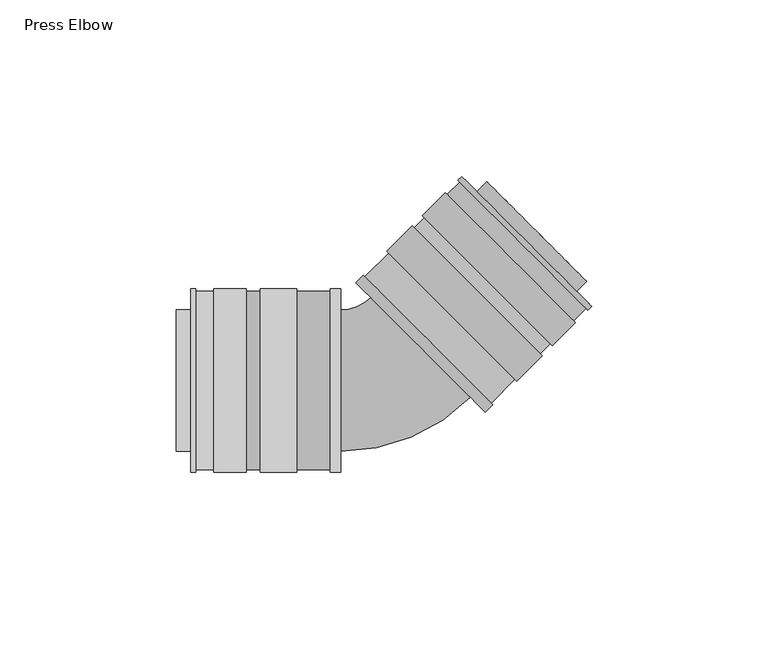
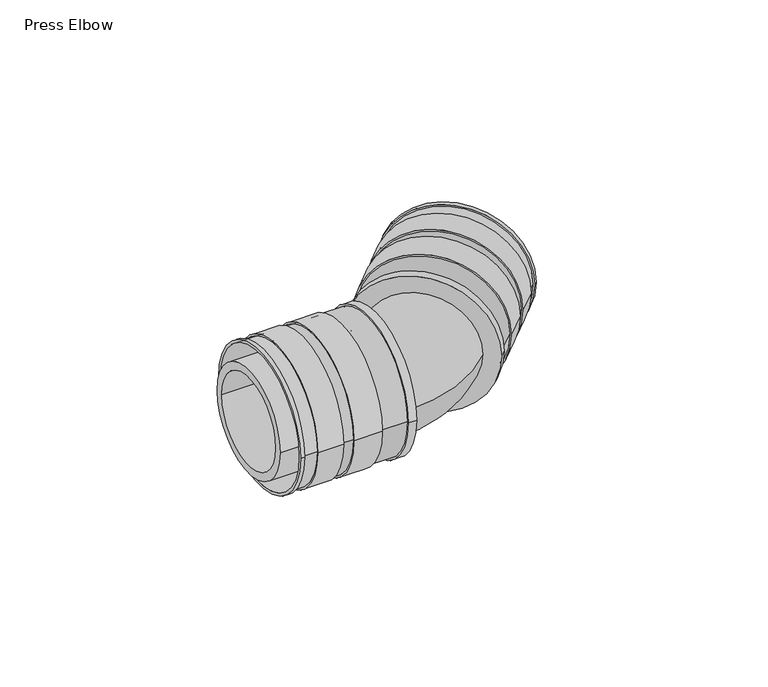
"""IFC4 building model written with IfcOpenShell, lengths in millimetres: pipe fitting geometry, Press Elbow : Superpipe Press Elbow."""

from ifc_helpers import new_model, si_unit, point, frame, origin, origin_2d, place, context, project, spatial, polyline, circle_curve, ellipse_curve, trimmed, segment, composite_curve, outline, extrude, source, transform, mapped, element, save
from ifc_brep_helpers import plane_surface, cylinder_surface, revolved_surface, advanced_brep


def press_elbow_ccdfa179(model_context):
    return source(origin(), model_context, "Body", "SolidModel", [
        advanced_brep(
        [(-6.3958982, 29.3837049, 0.0), (29.3837049, -6.3958982, 0.0), (29.1715729, -6.1837662, 0.0), (-6.1837662, 29.1715729, 0.0), (57.8093975, 21.0398449, 0.0), (21.0398449, 57.8093975, 0.0), (57.1022907, 21.7469517, 0.0), (21.7469517, 57.1022907, 0.0), (56.7487373, 19.9791847, 0.0), (19.9791847, 56.7487373, 0.0), (36.5961941, -0.1733585, 0.0), (-0.1733585, 36.5961941, 0.0), (7.074486, 43.8440386, 0.0), (43.8440386, 7.074486, 0.0), (46.6724657, 9.9029131, 0.0), (9.9029131, 46.6724657, 0.0), (16.4436508, 53.2132034, 0.0), (53.2132034, 16.4436508, 0.0), (36.1012193, 0.3216162, 0.0), (0.3216162, 36.1012193, 0.0), (43.3490638, 7.5694607, 0.0), (7.5694607, 43.3490638, 0.0), (46.177491, 10.3978878, 0.0), (10.3978878, 46.177491, 0.0), (20.4741595, 56.2537626, 0.0), (56.2537626, 20.4741595, 0.0), (16.9386256, 52.7182287, 0.0), (52.7182287, 16.9386256, 0.0)],
        [
            (0, 1, circle_curve(frame((11.4939033, 11.4939033, 0.0), z_axis=(-0.707106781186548, -0.7071067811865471, 0.0), x_axis=(-0.7071067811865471, 0.707106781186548, 0.0)), 25.3)),
            (1, 0, circle_curve(frame((11.4939033, 11.4939033, 0.0), z_axis=(-0.707106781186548, -0.7071067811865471, 0.0), x_axis=(-0.7071067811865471, 0.707106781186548, 0.0)), 25.3)),
            (2, 3, circle_curve(frame((11.4939033, 11.4939033, 0.0), z_axis=(0.7071067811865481, 0.7071067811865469, 0.0), x_axis=(-0.7071067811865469, 0.7071067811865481, 0.0)), 25.0)),
            (3, 2, circle_curve(frame((11.4939033, 11.4939033, 0.0), z_axis=(0.7071067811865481, 0.7071067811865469, 0.0), x_axis=(-0.7071067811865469, 0.7071067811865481, 0.0)), 25.0)),
            (4, 5, circle_curve(frame((39.4246212, 39.4246212, 0.0), z_axis=(0.7071067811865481, 0.7071067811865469, 0.0), x_axis=(-0.7071067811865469, 0.7071067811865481, 0.0)), 26.0)),
            (5, 4, circle_curve(frame((39.4246212, 39.4246212, 0.0), z_axis=(0.7071067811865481, 0.7071067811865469, 0.0), x_axis=(-0.7071067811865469, 0.7071067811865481, 0.0)), 26.0)),
            (6, 7, circle_curve(frame((39.4246212, 39.4246212, 0.0), z_axis=(-0.7071067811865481, -0.7071067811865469, 0.0), x_axis=(-0.7071067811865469, 0.7071067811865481, 0.0)), 25.0)),
            (7, 6, circle_curve(frame((39.4246212, 39.4246212, 0.0), z_axis=(-0.7071067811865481, -0.7071067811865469, 0.0), x_axis=(-0.7071067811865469, 0.7071067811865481, 0.0)), 25.0)),
            (4, 8),
            (8, 9, circle_curve(frame((38.363961, 38.363961, 0.0), z_axis=(0.7071067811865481, 0.7071067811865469, 0.0), x_axis=(-0.7071067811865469, 0.7071067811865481, 0.0)), 26.0)),
            (9, 5),
            (10, 11, circle_curve(frame((18.2114178, 18.2114178, 0.0), z_axis=(0.7071067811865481, 0.7071067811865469, 0.0), x_axis=(-0.7071067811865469, 0.7071067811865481, 0.0)), 26.0)),
            (11, 12),
            (12, 13, circle_curve(frame((25.4592623, 25.4592623, 0.0), z_axis=(-0.7071067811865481, -0.7071067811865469, 0.0), x_axis=(-0.7071067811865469, 0.7071067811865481, 0.0)), 26.0)),
            (13, 10),
            (14, 15, circle_curve(frame((28.2876894, 28.2876894, 0.0), z_axis=(0.7071067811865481, 0.7071067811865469, 0.0), x_axis=(-0.7071067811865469, 0.7071067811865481, 0.0)), 26.0)),
            (15, 16),
            (16, 17, circle_curve(frame((34.8284271, 34.8284271, 0.0), z_axis=(-0.7071067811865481, -0.7071067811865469, 0.0), x_axis=(-0.7071067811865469, 0.7071067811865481, 0.0)), 26.0)),
            (17, 14),
            (9, 8, circle_curve(frame((38.363961, 38.363961, 0.0), z_axis=(0.7071067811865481, 0.7071067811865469, 0.0), x_axis=(-0.7071067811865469, 0.7071067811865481, 0.0)), 26.0)),
            (11, 10, circle_curve(frame((18.2114178, 18.2114178, 0.0), z_axis=(0.7071067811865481, 0.7071067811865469, 0.0), x_axis=(-0.7071067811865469, 0.7071067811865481, 0.0)), 26.0)),
            (13, 12, circle_curve(frame((25.4592623, 25.4592623, 0.0), z_axis=(-0.7071067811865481, -0.7071067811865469, 0.0), x_axis=(-0.7071067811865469, 0.7071067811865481, 0.0)), 26.0)),
            (15, 14, circle_curve(frame((28.2876894, 28.2876894, 0.0), z_axis=(0.7071067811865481, 0.7071067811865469, 0.0), x_axis=(-0.7071067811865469, 0.7071067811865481, 0.0)), 26.0)),
            (17, 16, circle_curve(frame((34.8284271, 34.8284271, 0.0), z_axis=(-0.7071067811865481, -0.7071067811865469, 0.0), x_axis=(-0.7071067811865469, 0.7071067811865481, 0.0)), 26.0)),
            (3, 7),
            (6, 2),
            (18, 19, circle_curve(frame((18.2114178, 18.2114178, 0.0), z_axis=(0.707106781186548, 0.7071067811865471, 0.0), x_axis=(-0.7071067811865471, 0.707106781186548, 0.0)), 25.3)),
            (19, 18, circle_curve(frame((18.2114178, 18.2114178, 0.0), z_axis=(0.707106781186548, 0.7071067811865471, 0.0), x_axis=(-0.7071067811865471, 0.707106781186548, 0.0)), 25.3)),
            (18, 1),
            (0, 19),
            (20, 21, circle_curve(frame((25.4592623, 25.4592623, 0.0), z_axis=(-0.7071067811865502, -0.7071067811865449, 0.0), x_axis=(-0.7071067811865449, 0.7071067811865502, 0.0)), 25.3)),
            (21, 20, circle_curve(frame((25.4592623, 25.4592623, 0.0), z_axis=(-0.7071067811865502, -0.7071067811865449, 0.0), x_axis=(-0.7071067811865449, 0.7071067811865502, 0.0)), 25.3)),
            (22, 23, circle_curve(frame((28.2876894, 28.2876894, 0.0), z_axis=(0.7071067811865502, 0.7071067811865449, 0.0), x_axis=(-0.7071067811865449, 0.7071067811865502, 0.0)), 25.3)),
            (23, 22, circle_curve(frame((28.2876894, 28.2876894, 0.0), z_axis=(0.7071067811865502, 0.7071067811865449, 0.0), x_axis=(-0.7071067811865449, 0.7071067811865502, 0.0)), 25.3)),
            (21, 23),
            (22, 20),
            (24, 25, circle_curve(frame((38.363961, 38.363961, 0.0), z_axis=(0.7071067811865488, 0.7071067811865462, 0.0), x_axis=(0.7071067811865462, -0.7071067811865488, 0.0)), 25.3)),
            (25, 24, circle_curve(frame((38.363961, 38.363961, 0.0), z_axis=(0.7071067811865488, 0.7071067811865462, 0.0), x_axis=(0.7071067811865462, -0.7071067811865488, 0.0)), 25.3)),
            (26, 27, circle_curve(frame((34.8284271, 34.8284271, 0.0), z_axis=(-0.7071067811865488, -0.7071067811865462, 0.0), x_axis=(0.7071067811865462, -0.7071067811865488, 0.0)), 25.3)),
            (27, 26, circle_curve(frame((34.8284271, 34.8284271, 0.0), z_axis=(-0.7071067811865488, -0.7071067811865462, 0.0), x_axis=(0.7071067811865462, -0.7071067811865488, 0.0)), 25.3)),
            (25, 27),
            (26, 24),
        ],
        [
            plane_surface(frame((11.4939033, 11.4939033, 0.0), z_axis=(-0.7071067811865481, -0.7071067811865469, 0.0), x_axis=(0.0, 0.0, 1.0))),
            plane_surface(frame((39.4246212, 39.4246212, 0.0), z_axis=(0.7071067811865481, 0.7071067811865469, 0.0), x_axis=(0.0, 0.0, 1.0))),
            cylinder_surface(frame((11.4939033, 11.4939033, 0.0), z_axis=(-0.7071067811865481, -0.7071067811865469, 0.0), x_axis=(-0.7071067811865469, 0.7071067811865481, 0.0)), 26.0),
            revolved_surface(polyline([(21.74695167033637, 57.10229072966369, 0.0), (-6.1837662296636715, 29.171572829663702, 0.0)]), (11.4939033, 11.4939033, 0.0), (0.7071067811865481, 0.7071067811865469, 0.0)),
            plane_surface(frame((18.2114178, 18.2114178, 0.0), z_axis=(-0.707106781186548, -0.7071067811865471, 0.0), x_axis=(0.0, 0.0, 1.0))),
            cylinder_surface(frame((11.4939033, 11.4939033, 0.0), z_axis=(0.707106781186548, 0.7071067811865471, 0.0), x_axis=(-0.7071067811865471, 0.707106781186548, 0.0)), 25.3),
            plane_surface(frame((25.4592623, 25.4592623, 0.0), z_axis=(0.7071067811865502, 0.7071067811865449, 0.0), x_axis=(0.0, 0.0, 1.0))),
            plane_surface(frame((28.2876894, 28.2876894, 0.0), z_axis=(-0.7071067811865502, -0.7071067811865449, 0.0), x_axis=(0.0, 0.0, 1.0))),
            cylinder_surface(frame((25.4592623, 25.4592623, 0.0), z_axis=(0.7071067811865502, 0.7071067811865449, 0.0), x_axis=(-0.7071067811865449, 0.7071067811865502, 0.0)), 25.3),
            plane_surface(frame((38.363961, 38.363961, 0.0), z_axis=(-0.7071067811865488, -0.7071067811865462, 0.0), x_axis=(0.0, 0.0, 1.0))),
            plane_surface(frame((34.8284271, 34.8284271, 0.0), z_axis=(0.7071067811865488, 0.7071067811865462, 0.0), x_axis=(0.0, 0.0, 1.0))),
            cylinder_surface(frame((38.363961, 38.363961, 0.0), z_axis=(-0.7071067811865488, -0.7071067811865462, 0.0), x_axis=(0.7071067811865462, -0.7071067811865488, 0.0)), 25.3),
        ],
        [
            (0, [[1, 2], [3, 4]]),
            (1, [[5, 6], [7, 8]]),
            (2, [[-5, 9, 10, 11]]),
            (2, [[12, 13, 14, 15]]),
            (2, [[16, 17, 18, 19]]),
            (2, [[-6, -11, 20, -9]]),
            (2, [[21, -15, 22, -13]]),
            (2, [[23, -19, 24, -17]]),
            (3, [[-4, 25, -7, 26]]),
            (3, [[-3, -26, -8, -25]]),
            (4, [[-12, -21], [27, 28]]),
            (5, [[-27, 29, -1, 30]]),
            (5, [[-28, -30, -2, -29]]),
            (6, [[-14, -22], [31, 32]]),
            (7, [[-16, -23], [33, 34]]),
            (8, [[-32, 35, -33, 36]]),
            (8, [[-31, -36, -34, -35]]),
            (9, [[-10, -20], [37, 38]]),
            (10, [[-18, -24], [39, 40]]),
            (11, [[-38, 41, -39, 42]]),
            (11, [[-37, -42, -40, -41]]),
        ],
    ),
        advanced_brep(
        [(-16.254834, -25.3, 0.0), (-16.254834, 25.3, 0.0), (-16.254834, 25.0, 0.0), (-16.254834, -25.0, 0.0), (-55.754834, 26.0, 0.0), (-55.754834, -26.0, 0.0), (-55.754834, 25.0, 0.0), (-55.754834, -25.0, 0.0), (-54.254834, 26.0, 0.0), (-54.254834, -26.0, 0.0), (-36.004834, -26.0, 0.0), (-36.004834, 26.0, 0.0), (-25.754834, 26.0, 0.0), (-25.754834, -26.0, 0.0), (-40.004834, 26.0, 0.0), (-40.004834, -26.0, 0.0), (-49.254834, -26.0, 0.0), (-49.254834, 26.0, 0.0), (-36.004834, 25.3, 0.0), (-36.004834, -25.3, 0.0), (-40.004834, 25.3, 0.0), (-40.004834, -25.3, 0.0), (-54.254834, -25.3, 0.0), (-54.254834, 25.3, 0.0), (-49.254834, -25.3, 0.0), (-49.254834, 25.3, 0.0), (-25.754834, 25.3, 0.0), (-25.754834, -25.3, 0.0)],
        [
            (0, 1, circle_curve(frame((-16.254834, 0.0, 0.0), z_axis=(1.0, 0.0, 0.0), x_axis=(0.0, -1.0, 0.0)), 25.3)),
            (1, 0, circle_curve(frame((-16.254834, 0.0, 0.0), z_axis=(1.0, 0.0, 0.0), x_axis=(0.0, -1.0, 0.0)), 25.3)),
            (2, 3, circle_curve(frame((-16.254834, 0.0, 0.0), z_axis=(-1.0, 0.0, 0.0), x_axis=(0.0, -1.0, 0.0)), 25.0)),
            (3, 2, circle_curve(frame((-16.254834, 0.0, 0.0), z_axis=(-1.0, 0.0, 0.0), x_axis=(0.0, -1.0, 0.0)), 25.0)),
            (4, 5, circle_curve(frame((-55.754834, 0.0, 0.0), z_axis=(-1.0, 0.0, 0.0), x_axis=(0.0, -1.0, 0.0)), 26.0)),
            (5, 4, circle_curve(frame((-55.754834, 0.0, 0.0), z_axis=(-1.0, 0.0, 0.0), x_axis=(0.0, -1.0, 0.0)), 26.0)),
            (6, 7, circle_curve(frame((-55.754834, 0.0, 0.0), z_axis=(1.0, 0.0, 0.0), x_axis=(0.0, -1.0, 0.0)), 25.0)),
            (7, 6, circle_curve(frame((-55.754834, 0.0, 0.0), z_axis=(1.0, 0.0, 0.0), x_axis=(0.0, -1.0, 0.0)), 25.0)),
            (3, 7),
            (6, 2),
            (4, 8),
            (8, 9, circle_curve(frame((-54.254834, 0.0, 0.0), z_axis=(-1.0, 0.0, 0.0), x_axis=(0.0, -1.0, 0.0)), 26.0)),
            (9, 5),
            (10, 11, circle_curve(frame((-36.004834, 0.0, 0.0), z_axis=(1.0, 0.0, 0.0), x_axis=(0.0, -1.0, 0.0)), 26.0)),
            (11, 12),
            (12, 13, circle_curve(frame((-25.754834, 0.0, 0.0), z_axis=(-1.0, 0.0, 0.0), x_axis=(0.0, -1.0, 0.0)), 26.0)),
            (13, 10),
            (14, 15, circle_curve(frame((-40.004834, 0.0, 0.0), z_axis=(-1.0, 0.0, 0.0), x_axis=(0.0, -1.0, 0.0)), 26.0)),
            (15, 16),
            (16, 17, circle_curve(frame((-49.254834, 0.0, 0.0), z_axis=(1.0, 0.0, 0.0), x_axis=(0.0, -1.0, 0.0)), 26.0)),
            (17, 14),
            (9, 8, circle_curve(frame((-54.254834, 0.0, 0.0), z_axis=(-1.0, 0.0, 0.0), x_axis=(0.0, -1.0, 0.0)), 26.0)),
            (11, 10, circle_curve(frame((-36.004834, 0.0, 0.0), z_axis=(1.0, 0.0, 0.0), x_axis=(0.0, -1.0, 0.0)), 26.0)),
            (13, 12, circle_curve(frame((-25.754834, 0.0, 0.0), z_axis=(-1.0, 0.0, 0.0), x_axis=(0.0, -1.0, 0.0)), 26.0)),
            (15, 14, circle_curve(frame((-40.004834, 0.0, 0.0), z_axis=(-1.0, 0.0, 0.0), x_axis=(0.0, -1.0, 0.0)), 26.0)),
            (17, 16, circle_curve(frame((-49.254834, 0.0, 0.0), z_axis=(1.0, 0.0, 0.0), x_axis=(0.0, -1.0, 0.0)), 26.0)),
            (18, 19, circle_curve(frame((-36.004834, 0.0, 0.0), z_axis=(1.0, 0.0, 0.0), x_axis=(0.0, -1.0, 0.0)), 25.3)),
            (19, 18, circle_curve(frame((-36.004834, 0.0, 0.0), z_axis=(1.0, 0.0, 0.0), x_axis=(0.0, -1.0, 0.0)), 25.3)),
            (20, 21, circle_curve(frame((-40.004834, 0.0, 0.0), z_axis=(-1.0, 0.0, 0.0), x_axis=(0.0, -1.0, 0.0)), 25.3)),
            (21, 20, circle_curve(frame((-40.004834, 0.0, 0.0), z_axis=(-1.0, 0.0, 0.0), x_axis=(0.0, -1.0, 0.0)), 25.3)),
            (19, 21),
            (20, 18),
            (22, 23, circle_curve(frame((-54.254834, 0.0, 0.0), z_axis=(-1.0, 0.0, 0.0), x_axis=(0.0, 1.0, 0.0)), 25.3)),
            (23, 22, circle_curve(frame((-54.254834, 0.0, 0.0), z_axis=(-1.0, 0.0, 0.0), x_axis=(0.0, 1.0, 0.0)), 25.3)),
            (24, 25, circle_curve(frame((-49.254834, 0.0, 0.0), z_axis=(1.0, 0.0, 0.0), x_axis=(0.0, 1.0, 0.0)), 25.3)),
            (25, 24, circle_curve(frame((-49.254834, 0.0, 0.0), z_axis=(1.0, 0.0, 0.0), x_axis=(0.0, 1.0, 0.0)), 25.3)),
            (23, 25),
            (24, 22),
            (26, 27, circle_curve(frame((-25.754834, 0.0, 0.0), z_axis=(-1.0, 0.0, 0.0), x_axis=(0.0, -1.0, 0.0)), 25.3)),
            (27, 26, circle_curve(frame((-25.754834, 0.0, 0.0), z_axis=(-1.0, 0.0, 0.0), x_axis=(0.0, -1.0, 0.0)), 25.3)),
            (26, 1),
            (0, 27),
        ],
        [
            plane_surface(frame((-16.254834, 0.0, 0.0), z_axis=(1.0, 0.0, 0.0), x_axis=(0.0, 0.0, 1.0))),
            plane_surface(frame((-55.754834, 0.0, 0.0), z_axis=(-1.0, 0.0, 0.0), x_axis=(0.0, 0.0, 1.0))),
            revolved_surface(polyline([(-55.754834, -25.0, 0.0), (-16.254834, -25.0, 0.0)]), (-16.254834, 0.0, 0.0), (-1.0, 0.0, 0.0)),
            cylinder_surface(frame((-16.254834, 0.0, 0.0), z_axis=(1.0, 0.0, 0.0), x_axis=(0.0, -1.0, 0.0)), 26.0),
            plane_surface(frame((-36.004834, 0.0, 0.0), z_axis=(-1.0, 0.0, 0.0), x_axis=(0.0, 0.0, 1.0))),
            plane_surface(frame((-40.004834, 0.0, 0.0), z_axis=(1.0, 0.0, 0.0), x_axis=(0.0, 0.0, 1.0))),
            cylinder_surface(frame((-36.004834, 0.0, 0.0), z_axis=(-1.0, 0.0, 0.0), x_axis=(0.0, -1.0, 0.0)), 25.3),
            plane_surface(frame((-54.254834, 0.0, 0.0), z_axis=(1.0, 0.0, 0.0), x_axis=(0.0, 0.0, 1.0))),
            plane_surface(frame((-49.254834, 0.0, 0.0), z_axis=(-1.0, 0.0, 0.0), x_axis=(0.0, 0.0, 1.0))),
            cylinder_surface(frame((-54.254834, 0.0, 0.0), z_axis=(1.0, 0.0, 0.0), x_axis=(0.0, 1.0, 0.0)), 25.3),
            plane_surface(frame((-25.754834, 0.0, 0.0), z_axis=(1.0, 0.0, 0.0), x_axis=(0.0, 0.0, 1.0))),
            cylinder_surface(frame((-16.254834, 0.0, 0.0), z_axis=(-1.0, 0.0, 0.0), x_axis=(0.0, -1.0, 0.0)), 25.3),
        ],
        [
            (0, [[1, 2], [3, 4]]),
            (1, [[5, 6], [7, 8]]),
            (2, [[-4, 9, -7, 10]]),
            (2, [[-3, -10, -8, -9]]),
            (3, [[-5, 11, 12, 13]]),
            (3, [[14, 15, 16, 17]]),
            (3, [[18, 19, 20, 21]]),
            (3, [[-6, -13, 22, -11]]),
            (3, [[23, -17, 24, -15]]),
            (3, [[25, -21, 26, -19]]),
            (4, [[-14, -23], [27, 28]]),
            (5, [[-18, -25], [29, 30]]),
            (6, [[-28, 31, -29, 32]]),
            (6, [[-27, -32, -30, -31]]),
            (7, [[-12, -22], [33, 34]]),
            (8, [[-20, -26], [35, 36]]),
            (9, [[-34, 37, -35, 38]]),
            (9, [[-33, -38, -36, -37]]),
            (10, [[-16, -24], [39, 40]]),
            (11, [[-39, 41, -1, 42]]),
            (11, [[-40, -42, -2, -41]]),
        ],
    ),
        extrude(outline(composite_curve([segment(trimmed(circle_curve(origin_2d(), 20.0), [point((0.0, 20.0))], [point((0.0, -20.0))], False, "CARTESIAN"), True, "CONTINUOUS"), segment(trimmed(circle_curve(origin_2d(), 20.0), [point((0.0, -20.0))], [point((0.0, 20.0))], False, "CARTESIAN"), True, "CONTINUOUS")], self_intersect=False), holes=[composite_curve([segment(trimmed(circle_curve(origin_2d(), 17.0), [point((0.0, 17.0))], [point((0.0, -17.0))], True, "CARTESIAN"), True, "CONTINUOUS"), segment(trimmed(circle_curve(origin_2d(), 17.0), [point((0.0, -17.0))], [point((0.0, 17.0))], True, "CARTESIAN"), True, "CONTINUOUS")], self_intersect=False)]), frame((11.4939033, 11.4939033, 0.0), z_axis=(0.7071067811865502, 0.7071067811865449, 0.0), x_axis=(0.0, 0.0, 1.0)), (0.0, 0.0, 1.0), 43.5),
        extrude(outline(composite_curve([segment(trimmed(circle_curve(origin_2d(), 26.0), [point((0.0, 26.0))], [point((0.0, -26.0))], False, "CARTESIAN"), True, "CONTINUOUS"), segment(trimmed(circle_curve(origin_2d(), 26.0), [point((0.0, -26.0))], [point((0.0, 26.0))], False, "CARTESIAN"), True, "CONTINUOUS")], self_intersect=False), holes=[composite_curve([segment(trimmed(circle_curve(origin_2d(), 17.0), [point((0.0, 17.0))], [point((0.0, -17.0))], True, "CARTESIAN"), True, "CONTINUOUS"), segment(trimmed(circle_curve(origin_2d(), 17.0), [point((0.0, -17.0))], [point((0.0, 17.0))], True, "CARTESIAN"), True, "CONTINUOUS")], self_intersect=False)]), frame((9.372583, 9.372583, 0.0), z_axis=(0.7071067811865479, 0.7071067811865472, 0.0), x_axis=(0.0, 0.0, 1.0)), (0.0, 0.0, 1.0), 3.0),
        extrude(outline(composite_curve([segment(trimmed(circle_curve(origin_2d(), 26.0), [point((26.0, 0.0))], [point((-26.0, 0.0))], False, "CARTESIAN"), True, "CONTINUOUS"), segment(trimmed(circle_curve(origin_2d(), 26.0), [point((-26.0, 0.0))], [point((26.0, 0.0))], False, "CARTESIAN"), True, "CONTINUOUS")], self_intersect=False), holes=[composite_curve([segment(trimmed(circle_curve(origin_2d(), 17.0), [point((17.0, 0.0))], [point((-17.0, 0.0))], True, "CARTESIAN"), True, "CONTINUOUS"), segment(trimmed(circle_curve(origin_2d(), 17.0), [point((-17.0, 0.0))], [point((17.0, 0.0))], True, "CARTESIAN"), True, "CONTINUOUS")], self_intersect=False)]), frame((-16.254834, 0.0, 0.0), z_axis=(1.0, 0.0, 0.0), x_axis=(0.0, 1.0, 0.0)), (0.0, 0.0, 1.0), 3.0),
        extrude(outline(composite_curve([segment(trimmed(circle_curve(origin_2d(), 20.0), [point((20.0, 0.0))], [point((-20.0, 0.0))], False, "CARTESIAN"), True, "CONTINUOUS"), segment(trimmed(circle_curve(origin_2d(), 20.0), [point((-20.0, 0.0))], [point((20.0, 0.0))], False, "CARTESIAN"), True, "CONTINUOUS")], self_intersect=False), holes=[composite_curve([segment(trimmed(circle_curve(origin_2d(), 17.0), [point((17.0, 0.0))], [point((-17.0, 0.0))], True, "CARTESIAN"), True, "CONTINUOUS"), segment(trimmed(circle_curve(origin_2d(), 17.0), [point((-17.0, 0.0))], [point((17.0, 0.0))], True, "CARTESIAN"), True, "CONTINUOUS")], self_intersect=False)]), frame((-59.754834, 0.0, 0.0), z_axis=(1.0, 0.0, 0.0), x_axis=(0.0, 1.0, 0.0)), (0.0, 0.0, 1.0), 43.5),
        advanced_brep(
        [(-13.254834, -17.0, 0.0), (-13.254834, 17.0, 0.0), (21.3933983, -2.6482323, 0.0), (-2.6482323, 21.3933983, 0.0)],
        [
            (0, 1, circle_curve(frame((-13.254834, 0.0, 0.0), z_axis=(-1.0, 0.0, 0.0), x_axis=(0.0, 1.0, 0.0)), 17.0)),
            (1, 0, circle_curve(frame((-13.254834, 0.0, 0.0), z_axis=(-1.0, 0.0, 0.0), x_axis=(0.0, 1.0, 0.0)), 17.0)),
            (2, 3, circle_curve(frame((9.372583, 9.372583, 0.0), z_axis=(0.7071067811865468, 0.7071067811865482, 0.0), x_axis=(-0.7071067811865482, 0.7071067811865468, 0.0)), 17.0)),
            (3, 2, circle_curve(frame((9.372583, 9.372583, 0.0), z_axis=(0.7071067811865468, 0.7071067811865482, 0.0), x_axis=(-0.7071067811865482, 0.7071067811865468, 0.0)), 17.0)),
            (3, 1, circle_curve(frame((-13.254834, 32.0, 0.0), z_axis=(0.0, 0.0, -1.0), x_axis=(0.0, -1.0, 0.0)), 15.0)),
            (0, 2, circle_curve(frame((-13.254834, 32.0, 0.0), z_axis=(0.0, 0.0, 1.0), x_axis=(0.0, -1.0, 0.0)), 49.0)),
        ],
        [
            plane_surface(frame((-13.254834, 0.0, 0.0), z_axis=(-1.0, 0.0, 0.0), x_axis=(0.0, 0.0, 1.0))),
            plane_surface(frame((9.372583, 9.372583, 0.0), z_axis=(0.707106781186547, 0.7071067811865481, 0.0), x_axis=(0.0, 0.0, 1.0))),
            revolved_surface(trimmed(ellipse_curve(frame((-13.254834, 0.0, 0.0), z_axis=(-1.0, 0.0, 0.0), x_axis=(0.0, 1.0, 0.0)), 17.0, 17.0), [point((-13.254834, -17.0, 0.0))], [point((-13.254834, 17.0, 0.0))], True, "CARTESIAN"), (-13.254834, 32.0, 0.0), (0.0, 0.0, 1.0)),
            revolved_surface(trimmed(ellipse_curve(frame((-13.254834, 0.0, 0.0), z_axis=(-1.0, 0.0, 0.0), x_axis=(0.0, 1.0, 0.0)), 17.0, 17.0), [point((-13.254834, 17.0, 0.0))], [point((-13.254834, -17.0, 0.0))], True, "CARTESIAN"), (-13.254834, 32.0, 0.0), (0.0, 0.0, 1.0)),
        ],
        [
            (0, [[1, 2]]),
            (1, [[3, 4]]),
            (2, [[5, -1, 6, -4]]),
            (3, [[-6, -2, -5, -3]]),
        ],
    ),
        advanced_brep(
        [(-13.254834, -20.0, 0.0), (-13.254834, 20.0, 0.0), (23.5147186, -4.7695526, 0.0), (-4.7695526, 23.5147186, 0.0)],
        [
            (0, 1, circle_curve(frame((-13.254834, 0.0, 0.0), z_axis=(-1.0, 0.0, 0.0), x_axis=(0.0, 1.0, 0.0)), 20.0)),
            (1, 0, circle_curve(frame((-13.254834, 0.0, 0.0), z_axis=(-1.0, 0.0, 0.0), x_axis=(0.0, 1.0, 0.0)), 20.0)),
            (2, 3, circle_curve(frame((9.372583, 9.372583, 0.0), z_axis=(0.7071067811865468, 0.7071067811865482, 0.0), x_axis=(-0.7071067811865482, 0.7071067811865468, 0.0)), 20.0)),
            (3, 2, circle_curve(frame((9.372583, 9.372583, 0.0), z_axis=(0.7071067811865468, 0.7071067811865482, 0.0), x_axis=(-0.7071067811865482, 0.7071067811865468, 0.0)), 20.0)),
            (3, 1, circle_curve(frame((-13.254834, 32.0, 0.0), z_axis=(0.0, 0.0, -1.0), x_axis=(0.0, -1.0, 0.0)), 12.0)),
            (0, 2, circle_curve(frame((-13.254834, 32.0, 0.0), z_axis=(0.0, 0.0, 1.0), x_axis=(0.0, -1.0, 0.0)), 52.0)),
        ],
        [
            plane_surface(frame((-13.254834, 0.0, 0.0), z_axis=(-1.0, 0.0, 0.0), x_axis=(0.0, 0.0, 1.0))),
            plane_surface(frame((9.372583, 9.372583, 0.0), z_axis=(0.707106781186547, 0.7071067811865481, 0.0), x_axis=(0.0, 0.0, 1.0))),
            revolved_surface(trimmed(ellipse_curve(frame((-13.254834, 0.0, 0.0), z_axis=(-1.0, 0.0, 0.0), x_axis=(0.0, 1.0, 0.0)), 20.0, 20.0), [point((-13.254834, -20.0, 0.0))], [point((-13.254834, 20.0, 0.0))], True, "CARTESIAN"), (-13.254834, 32.0, 0.0), (0.0, 0.0, 1.0)),
            revolved_surface(trimmed(ellipse_curve(frame((-13.254834, 0.0, 0.0), z_axis=(-1.0, 0.0, 0.0), x_axis=(0.0, 1.0, 0.0)), 20.0, 20.0), [point((-13.254834, 20.0, 0.0))], [point((-13.254834, -20.0, 0.0))], True, "CARTESIAN"), (-13.254834, 32.0, 0.0), (0.0, 0.0, 1.0)),
        ],
        [
            (0, [[1, 2]]),
            (1, [[3, 4]]),
            (2, [[5, -1, 6, -4]]),
            (3, [[-6, -2, -5, -3]]),
        ],
    ),
    ])


if __name__ == "__main__":
    model = new_model("IFC4")
    model_context = context("Model", 3, world=origin())
    ifc_project = project(units=[si_unit("LENGTHUNIT", "METRE", prefix="MILLI")], contexts=[model_context])
    site = spatial("IfcSite", under=ifc_project)
    building = spatial("IfcBuilding", under=site)
    placement = place(None, origin())
    press_elbow_shape = press_elbow_ccdfa179(model_context)
    element("IfcPipeFitting", 1, ObjectType="Press Elbow : Superpipe Press Elbow", at=placement, inside=building, context=model_context, shape_type="MappedRepresentation", body=[
        mapped(press_elbow_shape, transform((0.0, 0.0, 0.0), x_axis=(1.0, 0.0, 0.0), y_axis=(0.0, 1.0, 0.0), z_axis=(0.0, 0.0, 1.0))),
    ])
    save(model, "model.ifc")
